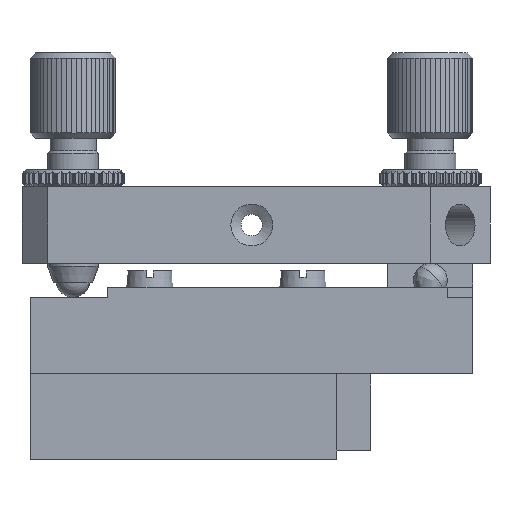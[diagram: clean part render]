
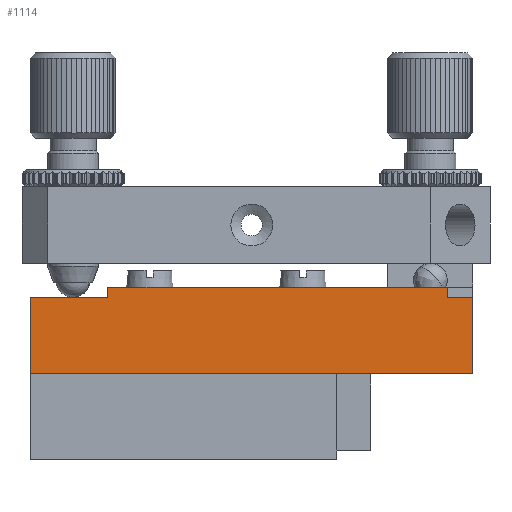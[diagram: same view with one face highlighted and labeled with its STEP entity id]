
A CAD part, left-side view. The second image highlights one B-rep face of the part: STEP entity #1114.
In plain terms, the highlighted planar face has unit normal (-1, 0, 0).
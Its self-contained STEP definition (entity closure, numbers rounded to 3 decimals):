
#324=CARTESIAN_POINT('',(-52.56,-40.333,-37.253));
#325=VERTEX_POINT('',#324);
#332=CARTESIAN_POINT('',(-52.56,11.667,-37.253));
#333=VERTEX_POINT('',#332);
#334=CARTESIAN_POINT('',(-52.56,11.667,-37.253));
#335=DIRECTION('',(0.0,-1.0,0.0));
#336=VECTOR('',#335,52.);
#337=LINE('',#334,#336);
#338=EDGE_CURVE('',#333,#325,#337,.T.);
#444=CARTESIAN_POINT('',(-52.56,-40.333,-28.253));
#445=VERTEX_POINT('',#444);
#452=CARTESIAN_POINT('',(-52.56,-40.333,-37.253));
#453=DIRECTION('',(0.0,0.0,1.0));
#454=VECTOR('',#453,9.);
#455=LINE('',#452,#454);
#456=EDGE_CURVE('',#325,#445,#455,.T.);
#524=CARTESIAN_POINT('',(-52.56,11.667,-28.253));
#525=VERTEX_POINT('',#524);
#532=CARTESIAN_POINT('',(-52.56,2.567,-28.253));
#533=VERTEX_POINT('',#532);
#534=CARTESIAN_POINT('',(-52.56,11.667,-28.253));
#535=DIRECTION('',(0.0,-1.0,0.0));
#536=VECTOR('',#535,9.1);
#537=LINE('',#534,#536);
#538=EDGE_CURVE('',#525,#533,#537,.T.);
#1068=CARTESIAN_POINT('',(-52.56,-40.333,-37.253));
#1069=DIRECTION('',(-1.0,0.0,0.0));
#1070=DIRECTION('',(0.0,0.0,1.0));
#1071=AXIS2_PLACEMENT_3D('',#1068,#1069,#1070);
#1072=PLANE('',#1071);
#1073=CARTESIAN_POINT('',(-52.56,-37.333,-27.053));
#1074=VERTEX_POINT('',#1073);
#1075=CARTESIAN_POINT('',(-52.56,2.567,-27.053));
#1076=VERTEX_POINT('',#1075);
#1077=CARTESIAN_POINT('',(-52.56,-37.333,-27.053));
#1078=DIRECTION('',(0.0,1.0,0.0));
#1079=VECTOR('',#1078,39.9);
#1080=LINE('',#1077,#1079);
#1081=EDGE_CURVE('',#1074,#1076,#1080,.T.);
#1082=ORIENTED_EDGE('',*,*,#1081,.T.);
#1083=CARTESIAN_POINT('',(-52.56,2.567,-27.053));
#1084=DIRECTION('',(0.0,0.0,-1.0));
#1085=VECTOR('',#1084,1.2);
#1086=LINE('',#1083,#1085);
#1087=EDGE_CURVE('',#1076,#533,#1086,.T.);
#1088=ORIENTED_EDGE('',*,*,#1087,.T.);
#1089=ORIENTED_EDGE('',*,*,#538,.F.);
#1090=CARTESIAN_POINT('',(-52.56,11.667,-28.253));
#1091=DIRECTION('',(0.0,0.0,-1.0));
#1092=VECTOR('',#1091,9.);
#1093=LINE('',#1090,#1092);
#1094=EDGE_CURVE('',#525,#333,#1093,.T.);
#1095=ORIENTED_EDGE('',*,*,#1094,.T.);
#1096=ORIENTED_EDGE('',*,*,#338,.T.);
#1097=ORIENTED_EDGE('',*,*,#456,.T.);
#1098=CARTESIAN_POINT('',(-52.56,-37.333,-28.253));
#1099=VERTEX_POINT('',#1098);
#1100=CARTESIAN_POINT('',(-52.56,-40.333,-28.253));
#1101=DIRECTION('',(0.0,1.0,0.0));
#1102=VECTOR('',#1101,3.);
#1103=LINE('',#1100,#1102);
#1104=EDGE_CURVE('',#445,#1099,#1103,.T.);
#1105=ORIENTED_EDGE('',*,*,#1104,.T.);
#1106=CARTESIAN_POINT('',(-52.56,-37.333,-27.053));
#1107=DIRECTION('',(0.0,0.0,-1.0));
#1108=VECTOR('',#1107,1.2);
#1109=LINE('',#1106,#1108);
#1110=EDGE_CURVE('',#1074,#1099,#1109,.T.);
#1111=ORIENTED_EDGE('',*,*,#1110,.F.);
#1112=EDGE_LOOP('',(#1082,#1088,#1089,#1095,#1096,#1097,#1105,#1111));
#1113=FACE_OUTER_BOUND('',#1112,.T.);
#1114=ADVANCED_FACE('',(#1113),#1072,.T.);
